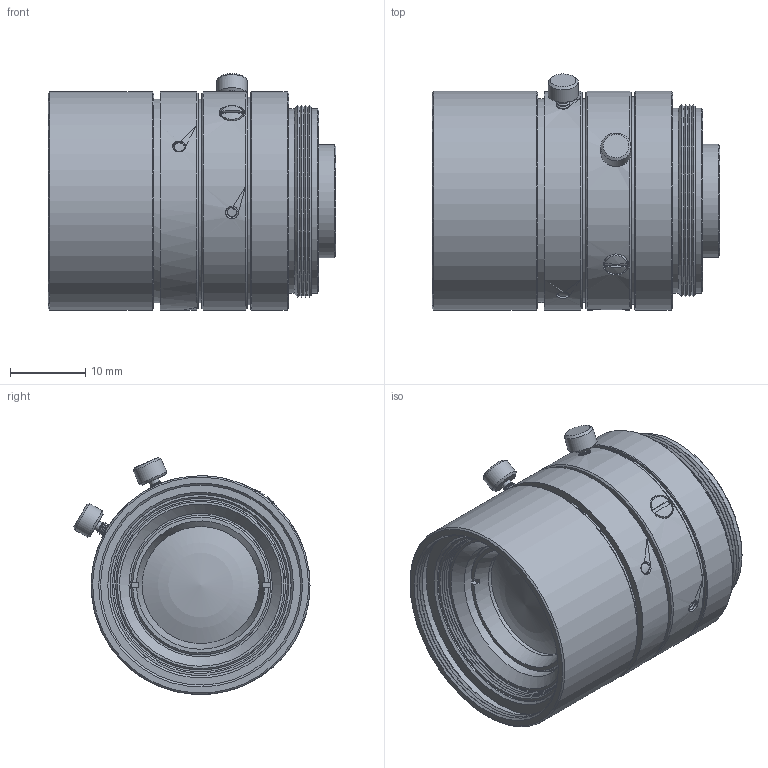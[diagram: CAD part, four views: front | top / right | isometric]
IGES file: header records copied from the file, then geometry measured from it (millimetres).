
Global section: file name: 153-13656_Objektiv LOC-25-HD-27x0,5; native system: Autodesk Inventor 2018; preprocessor: unknown; author: S.S.; date: 20200326.101851; units: millimetre
Bounding box: 38.16 x 31.28 x 31.41 mm (x, y, z)
Volume: 18233.1 mm3; surface area: 9480.6 mm2
Topology: 1 solids, 19 shells, 347 faces, 936 edges, 637 vertices
Faces by surface type: bspline 347
